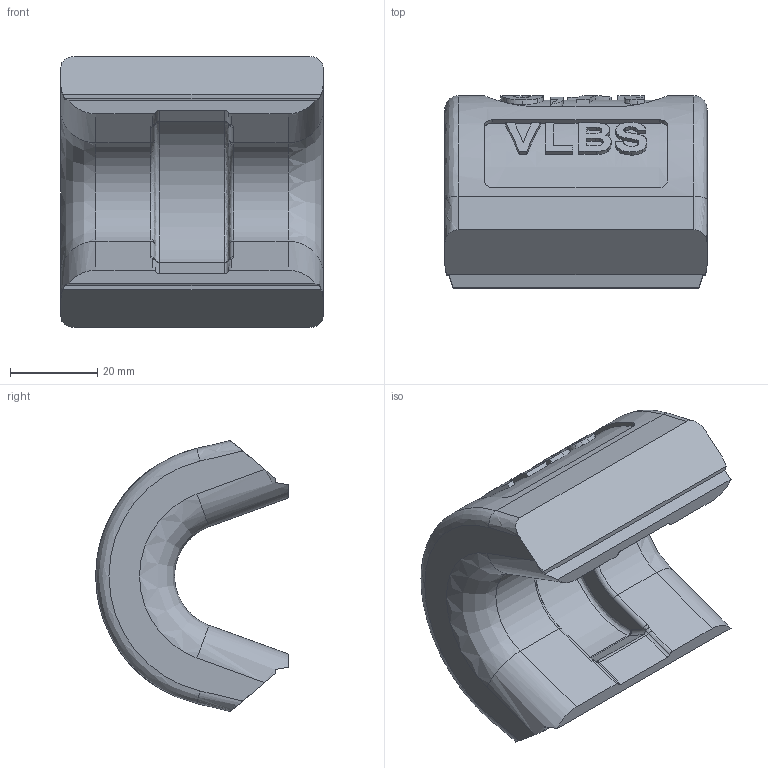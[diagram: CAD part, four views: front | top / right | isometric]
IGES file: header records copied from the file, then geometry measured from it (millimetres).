
Start section:  PTC IGES file: 001-m32120-p2.igs
Global section: file name: 001-m32120-p2.igs; native system: Pro/ENGINEER by Parametric Technology Corporation; preprocessor: 2011490; author: anja.joas; organization: Unknown; date: 20171006.080813; units: millimetre
Bounding box: 60 x 44 x 62 mm (x, y, z)
Volume: 77766 mm3; surface area: 16423 mm2
Topology: 1 solids, 1 shells, 284 faces, 751 edges, 486 vertices
Faces by surface type: bspline 118, revolution 84, extrusion 82
